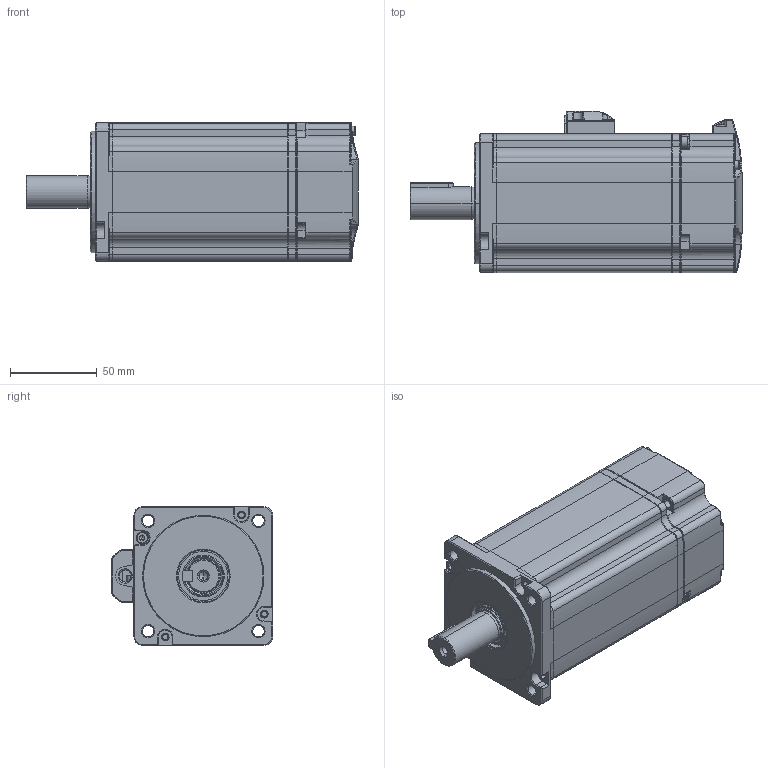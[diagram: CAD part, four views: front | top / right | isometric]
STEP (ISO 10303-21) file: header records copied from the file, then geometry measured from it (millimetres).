
FILE_DESCRIPTION (( 'STEP AP203' ), '1' );
FILE_NAME ('EM3J-08AT（带抱闸）.STEP', '2023-11-17T07:21:25', ( '' ), ( '' ), 'SwSTEP 2.0', 'SolidWorks 2018', '' );
FILE_SCHEMA (( 'CONFIG_CONTROL_DESIGN' ));
Length unit declared in the file: millimetre
Products named in the file (1): EM3J-08AT（带抱闸）
Bounding box: 191.5 x 93 x 80 mm (x, y, z)
Volume: 420403 mm3; surface area: 192638.4 mm2
Topology: 32 solids, 32 shells, 2050 faces, 5022 edges, 3035 vertices
Faces by surface type: cylinder 675, plane 629, cone 286, torus 217, bspline 156, sphere 87
Entity records: 66213 total; most frequent: CARTESIAN_POINT 17960, DIRECTION 10461, ORIENTED_EDGE 9932, EDGE_CURVE 4966, AXIS2_PLACEMENT_3D 4103, VERTEX_POINT 3034, VECTOR 2255, LINE 2255
